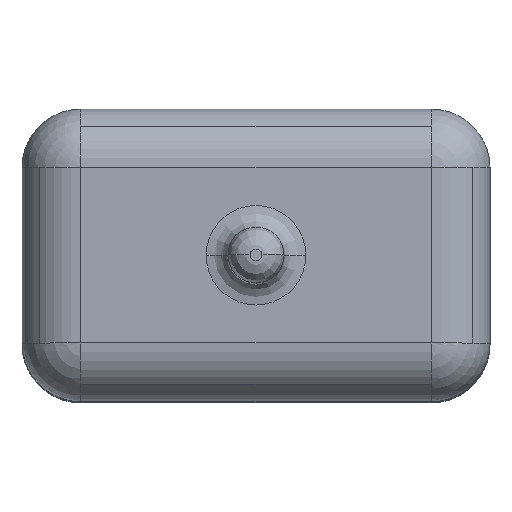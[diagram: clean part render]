
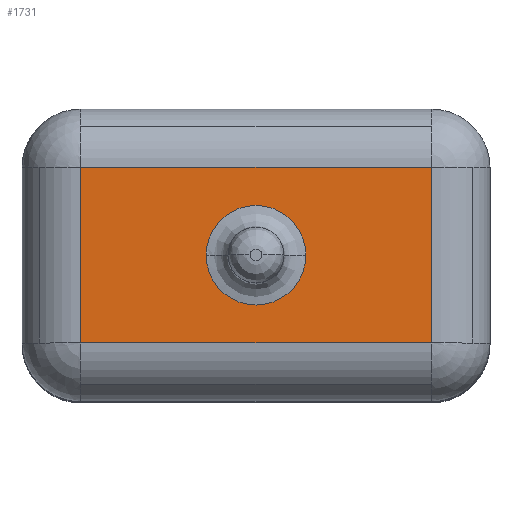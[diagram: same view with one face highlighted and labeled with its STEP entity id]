
A CAD part, top view. The second image highlights one B-rep face of the part: STEP entity #1731.
In plain terms, the highlighted planar face has unit normal (0, 0, 1).
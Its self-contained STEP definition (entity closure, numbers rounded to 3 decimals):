
#605=CARTESIAN_POINT('',(0.206,1.453,0.48));
#606=VERTEX_POINT('',#605);
#614=CARTESIAN_POINT('',(2.606,1.453,0.48));
#615=VERTEX_POINT('',#614);
#616=CARTESIAN_POINT('',(0.206,1.453,0.48));
#617=DIRECTION('',(1.0,0.0,0.0));
#618=VECTOR('',#617,2.4);
#619=LINE('',#616,#618);
#620=EDGE_CURVE('',#606,#615,#619,.T.);
#696=CARTESIAN_POINT('',(2.606,0.253,0.48));
#697=VERTEX_POINT('',#696);
#698=CARTESIAN_POINT('',(2.606,1.453,0.48));
#699=DIRECTION('',(0.0,-1.0,0.0));
#700=VECTOR('',#699,1.2);
#701=LINE('',#698,#700);
#702=EDGE_CURVE('',#615,#697,#701,.T.);
#729=CARTESIAN_POINT('',(0.206,0.253,0.48));
#730=VERTEX_POINT('',#729);
#738=CARTESIAN_POINT('',(0.206,0.253,0.48));
#739=DIRECTION('',(0.0,1.0,0.0));
#740=VECTOR('',#739,1.2);
#741=LINE('',#738,#740);
#742=EDGE_CURVE('',#730,#606,#741,.T.);
#776=CARTESIAN_POINT('',(2.606,0.253,0.48));
#777=DIRECTION('',(-1.0,0.0,0.0));
#778=VECTOR('',#777,2.4);
#779=LINE('',#776,#778);
#780=EDGE_CURVE('',#697,#730,#779,.T.);
#1399=CARTESIAN_POINT('',(1.747,0.853,0.48));
#1400=VERTEX_POINT('',#1399);
#1417=CARTESIAN_POINT('',(1.066,0.853,0.48));
#1418=VERTEX_POINT('',#1417);
#1426=CARTESIAN_POINT('',(1.406,0.853,0.48));
#1427=DIRECTION('',(0.0,0.0,1.0));
#1428=DIRECTION('',(-1.0,0.0,0.0));
#1429=AXIS2_PLACEMENT_3D('',#1426,#1427,#1428);
#1430=CIRCLE('',#1429,0.341);
#1431=EDGE_CURVE('',#1418,#1400,#1430,.T.);
#1704=CARTESIAN_POINT('',(1.406,0.853,0.48));
#1705=DIRECTION('',(0.0,0.0,1.0));
#1706=DIRECTION('',(-1.0,0.0,0.0));
#1707=AXIS2_PLACEMENT_3D('',#1704,#1705,#1706);
#1708=CIRCLE('',#1707,0.341);
#1709=EDGE_CURVE('',#1400,#1418,#1708,.T.);
#1716=CARTESIAN_POINT('',(2.003,0.857,0.48));
#1717=DIRECTION('',(0.0,0.0,1.0));
#1718=DIRECTION('',(1.0,0.0,0.0));
#1719=AXIS2_PLACEMENT_3D('',#1716,#1717,#1718);
#1720=PLANE('',#1719);
#1721=ORIENTED_EDGE('',*,*,#780,.F.);
#1722=ORIENTED_EDGE('',*,*,#702,.F.);
#1723=ORIENTED_EDGE('',*,*,#620,.F.);
#1724=ORIENTED_EDGE('',*,*,#742,.F.);
#1725=EDGE_LOOP('',(#1721,#1722,#1723,#1724));
#1726=FACE_OUTER_BOUND('',#1725,.T.);
#1727=ORIENTED_EDGE('',*,*,#1709,.F.);
#1728=ORIENTED_EDGE('',*,*,#1431,.F.);
#1729=EDGE_LOOP('',(#1727,#1728));
#1730=FACE_BOUND('',#1729,.T.);
#1731=ADVANCED_FACE('',(#1726,#1730),#1720,.T.);
